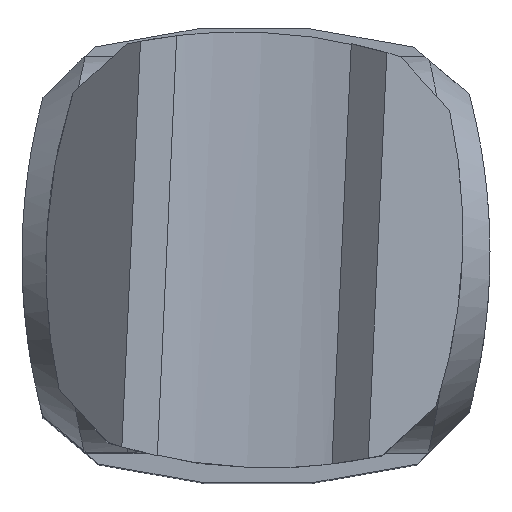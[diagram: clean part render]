
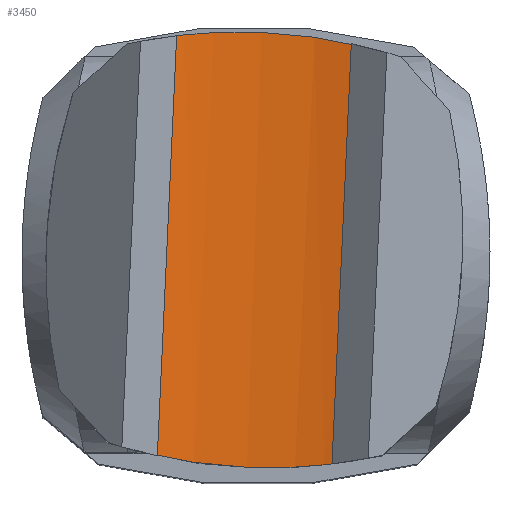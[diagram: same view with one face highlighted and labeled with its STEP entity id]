
A CAD part, top view. The second image highlights one B-rep face of the part: STEP entity #3450.
In plain terms, the highlighted cylindrical face has radius 28.84 mm (diameter 57.681 mm), a partial arc.
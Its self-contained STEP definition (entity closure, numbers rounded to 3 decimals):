
#94 = LINE ( 'NONE', #3777, #2972 ) ;
#176 = ORIENTED_EDGE ( 'NONE', *, *, #1097, .T. ) ;
#286 = CARTESIAN_POINT ( 'NONE',  ( -8.3, 7.053, 4.454 ) ) ;
#587 = CARTESIAN_POINT ( 'NONE',  ( -10.776, -22.549, 4.781 ) ) ;
#625 = EDGE_CURVE ( 'NONE', #7327, #5406, #5410, .T. ) ;
#630 = DIRECTION ( 'NONE',  ( 0., 0., -1. ) ) ;
#734 = CYLINDRICAL_SURFACE ( 'NONE', #1901, 28.841 ) ;
#852 = CARTESIAN_POINT ( 'NONE',  ( -18.32, 7.053, 4.454 ) ) ;
#872 = CARTESIAN_POINT ( 'NONE',  ( -5.87, 6.612, 3.889 ) ) ;
#1077 = ORIENTED_EDGE ( 'NONE', *, *, #1209, .T. ) ;
#1096 = CARTESIAN_POINT ( 'NONE',  ( -20.749, -21.851, 3.889 ) ) ;
#1097 = EDGE_CURVE ( 'NONE', #7327, #4350, #3438, .T. ) ;
#1136 = CARTESIAN_POINT ( 'NONE',  ( -5.87, -21.851, 3.889 ) ) ;
#1165 = CARTESIAN_POINT ( 'NONE',  ( -13.938, -22.616, 4.865 ) ) ;
#1209 = EDGE_CURVE ( 'NONE', #4350, #1830, #94, .T. ) ;
#1213 = DIRECTION ( 'NONE',  ( 0., -1., 0. ) ) ;
#1741 = CARTESIAN_POINT ( 'NONE',  ( -15.833, -22.534, 4.761 ) ) ;
#1796 = CARTESIAN_POINT ( 'NONE',  ( -19.542, -22.101, 4.211 ) ) ;
#1830 = VERTEX_POINT ( 'NONE', #5210 ) ;
#1901 = AXIS2_PLACEMENT_3D ( 'NONE', #4629, #1213, #630 ) ;
#2243 = EDGE_CURVE ( 'NONE', #1830, #5406, #5203, .T. ) ;
#2588 = CARTESIAN_POINT ( 'NONE',  ( -14.588, 7.376, 4.865 ) ) ;
#2741 = CARTESIAN_POINT ( 'NONE',  ( -20.749, 6.612, 3.889 ) ) ;
#2972 = VECTOR ( 'NONE', #6091, 1000. ) ;
#3151 = CARTESIAN_POINT ( 'NONE',  ( -12.045, 7.36, 4.844 ) ) ;
#3369 = CARTESIAN_POINT ( 'NONE',  ( -5.87, 6.612, 3.889 ) ) ;
#3438 = B_SPLINE_CURVE_WITH_KNOTS ( 'NONE', 3,
 ( #5428, #4856, #852, #6002, #2588, #6573, #3151, #7144, #3724, #286, #4312, #872 ),
 .UNSPECIFIED., .F., .F.,
 ( 4, 2, 2, 2, 2, 4 ),
 ( 0., 0.004, 0.008, 0.009, 0.011, 0.015 ),
 .UNSPECIFIED. ) ;
#3450 = ADVANCED_FACE ( 'NONE', ( #5662 ), #734, .F. ) ;
#3598 = CARTESIAN_POINT ( 'NONE',  ( -18.319, -22.292, 4.454 ) ) ;
#3706 = CARTESIAN_POINT ( 'NONE',  ( -20.749, 22., 3.889 ) ) ;
#3724 = CARTESIAN_POINT ( 'NONE',  ( -10.161, 7.246, 4.7 ) ) ;
#3777 = CARTESIAN_POINT ( 'NONE',  ( -5.87, 22., 3.889 ) ) ;
#4015 = CARTESIAN_POINT ( 'NONE',  ( -8.299, -22.292, 4.454 ) ) ;
#4109 = ORIENTED_EDGE ( 'NONE', *, *, #2243, .T. ) ;
#4285 = DIRECTION ( 'NONE',  ( 0., -1., 0. ) ) ;
#4312 = CARTESIAN_POINT ( 'NONE',  ( -7.077, 6.863, 4.211 ) ) ;
#4350 = VERTEX_POINT ( 'NONE', #3369 ) ;
#4471 = CARTESIAN_POINT ( 'NONE',  ( -16.458, -22.485, 4.7 ) ) ;
#4591 = CARTESIAN_POINT ( 'NONE',  ( -12.031, -22.615, 4.865 ) ) ;
#4629 = CARTESIAN_POINT ( 'NONE',  ( -13.309, 22., -23.975 ) ) ;
#4856 = CARTESIAN_POINT ( 'NONE',  ( -19.542, 6.863, 4.211 ) ) ;
#5161 = CARTESIAN_POINT ( 'NONE',  ( -14.574, -22.599, 4.844 ) ) ;
#5203 = B_SPLINE_CURVE_WITH_KNOTS ( 'NONE', 3,
 ( #1136, #6857, #4015, #587, #4591, #1165, #5161, #1741, #4471, #3598, #1796, #5806 ),
 .UNSPECIFIED., .F., .F.,
 ( 4, 2, 2, 2, 2, 4 ),
 ( 0., 0.004, 0.008, 0.009, 0.011, 0.015 ),
 .UNSPECIFIED. ) ;
#5210 = CARTESIAN_POINT ( 'NONE',  ( -5.87, -21.851, 3.889 ) ) ;
#5406 = VERTEX_POINT ( 'NONE', #1096 ) ;
#5410 = LINE ( 'NONE', #3706, #6926 ) ;
#5428 = CARTESIAN_POINT ( 'NONE',  ( -20.749, 6.612, 3.889 ) ) ;
#5662 = FACE_OUTER_BOUND ( 'NONE', #7263, .T. ) ;
#5806 = CARTESIAN_POINT ( 'NONE',  ( -20.749, -21.851, 3.889 ) ) ;
#6002 = CARTESIAN_POINT ( 'NONE',  ( -15.843, 7.31, 4.781 ) ) ;
#6091 = DIRECTION ( 'NONE',  ( 0., -1., 0. ) ) ;
#6573 = CARTESIAN_POINT ( 'NONE',  ( -12.68, 7.377, 4.865 ) ) ;
#6857 = CARTESIAN_POINT ( 'NONE',  ( -7.076, -22.101, 4.211 ) ) ;
#6926 = VECTOR ( 'NONE', #4285, 1000. ) ;
#7144 = CARTESIAN_POINT ( 'NONE',  ( -10.786, 7.295, 4.761 ) ) ;
#7263 = EDGE_LOOP ( 'NONE', ( #176, #1077, #4109, #7394 ) ) ;
#7327 = VERTEX_POINT ( 'NONE', #2741 ) ;
#7394 = ORIENTED_EDGE ( 'NONE', *, *, #625, .F. ) ;
